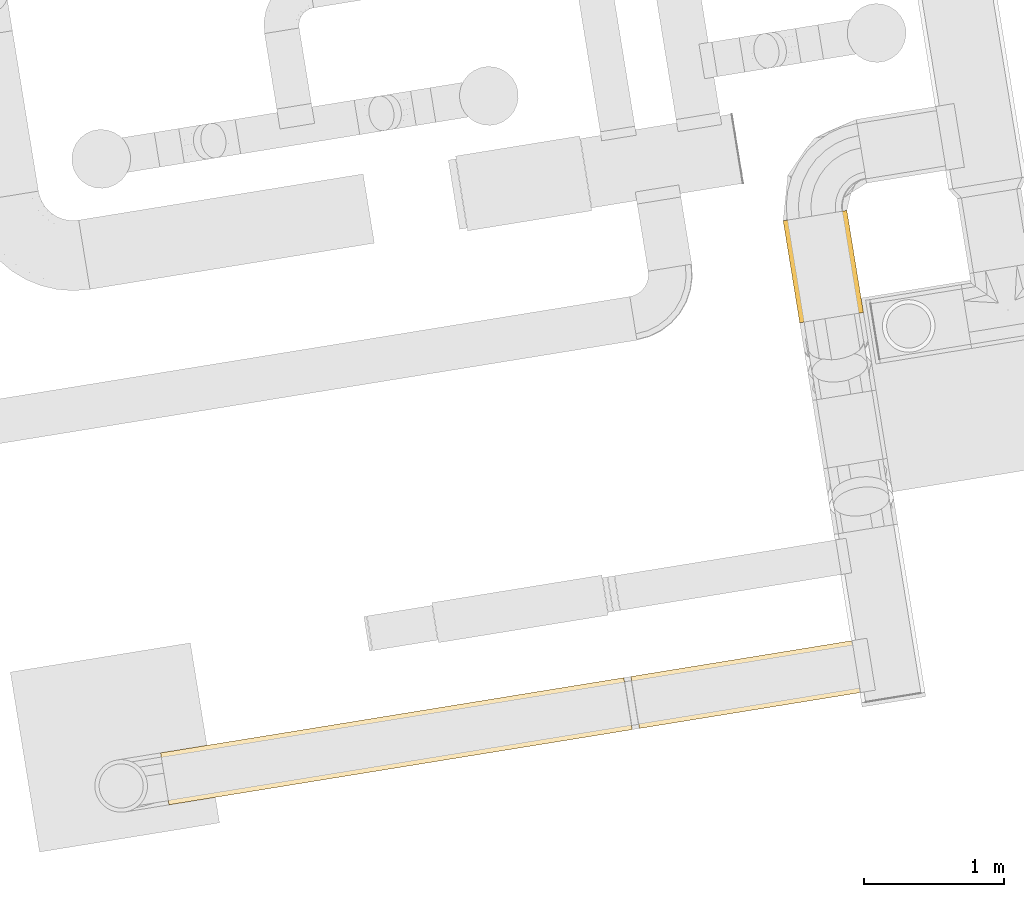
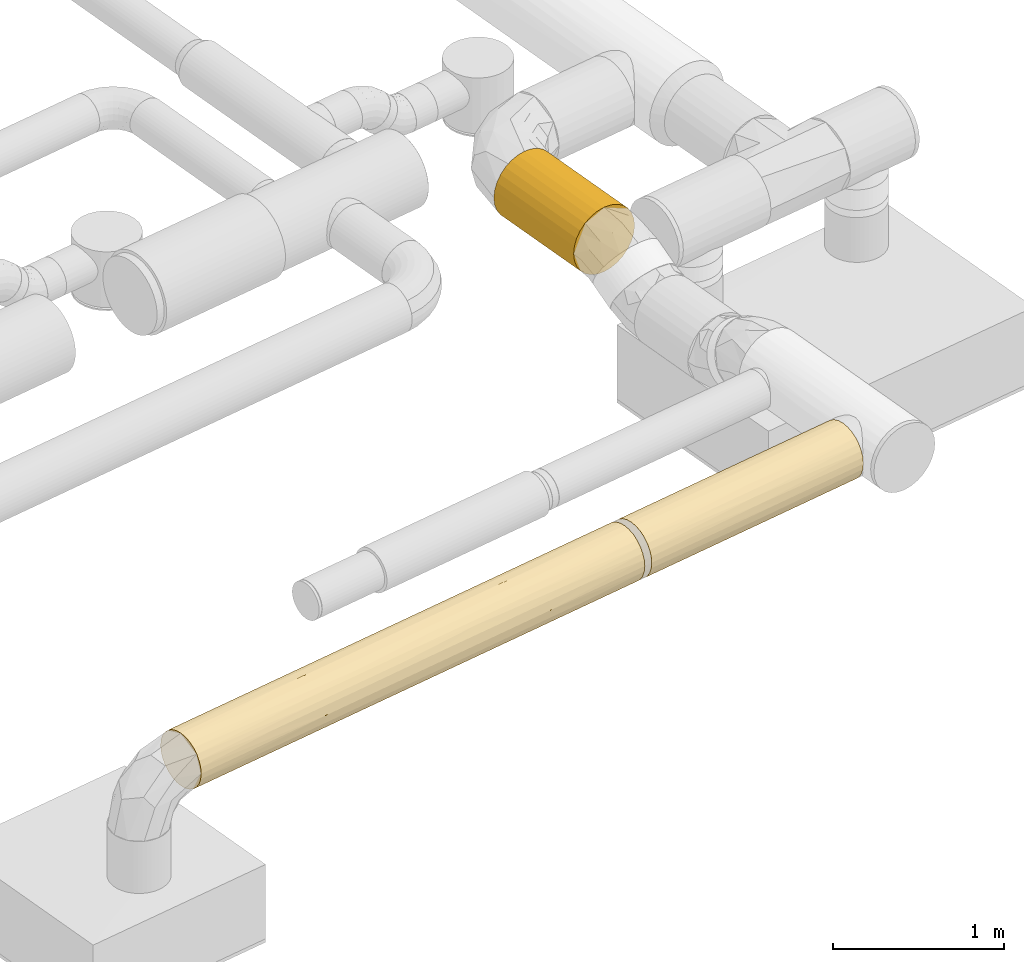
# One storey, part 3 of 39: 3 coverings.
"""IFC2X3 building model written with IfcOpenShell, lengths in millimetres."""

from ifc_helpers import new_model, entity, si_unit, converted_unit, derived_unit, direction, frame, origin, origin_with_axes, place, context, subcontext, project, spatial, faceted_brep, type_object, element, save


model = new_model("IFC2X3")

# Units and contexts
model_context = context("Model", 3, precision=0.01, world=origin(), true_north=direction((6.12323399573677e-17, 1.0)))
plan_context = context("Plan", 3, precision=1e-05, world=origin_with_axes())
body_context = subcontext(model_context, "Body", "Model", "MODEL_VIEW")
ifc_project = project(units=[converted_unit("PLANEANGLEUNIT", "DEGREE", entity("IfcPositiveLengthMeasure", 0.0174532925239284), si_unit("PLANEANGLEUNIT", "RADIAN"), dimensions=[0, 0, 0, 0, 0, 0, 0]), si_unit("AREAUNIT", "SQUARE_METRE"), si_unit("LENGTHUNIT", "METRE", prefix="MILLI"), si_unit("MASSUNIT", "GRAM", prefix="KILO"), si_unit("POWERUNIT", "WATT"), si_unit("PRESSUREUNIT", "PASCAL", prefix="KILO"), si_unit("FORCEUNIT", "NEWTON", prefix="KILO"), si_unit("ELECTRICVOLTAGEUNIT", "VOLT"), si_unit("ELECTRICCURRENTUNIT", "AMPERE"), si_unit("THERMODYNAMICTEMPERATUREUNIT", "DEGREE_CELSIUS"), si_unit("TIMEUNIT", "SECOND"), si_unit("VOLUMEUNIT", "CUBIC_METRE"), derived_unit("LINEARVELOCITYUNIT", [(si_unit("LENGTHUNIT", "METRE"), 1), (si_unit("TIMEUNIT", "SECOND"), -1)]), derived_unit("VOLUMETRICFLOWRATEUNIT", [(si_unit("VOLUMEUNIT", "CUBIC_METRE"), 1), (si_unit("TIMEUNIT", "SECOND"), -1)]), derived_unit("THERMALTRANSMITTANCEUNIT", [(si_unit("POWERUNIT", "WATT"), 1), (si_unit("THERMODYNAMICTEMPERATUREUNIT", "KELVIN"), -1), (si_unit("AREAUNIT", "SQUARE_METRE"), -1)]), derived_unit("SOUNDPRESSUREUNIT", [(si_unit("PRESSUREUNIT", "PASCAL"), 1)])], contexts=[model_context, plan_context])

# Site, building, storey
site_placement = place(None, frame((-0.00071070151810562, 0.00438415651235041, 0.0), z_axis=(0.0, 0.0, 1.0), x_axis=(-0.160236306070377, 0.987078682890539, 0.0)))
site = spatial("IfcSite", under=ifc_project, at=site_placement, Name="Default", CompositionType="ELEMENT")
building_placement = place(site_placement, origin_with_axes())
building = spatial("IfcBuilding", under=site, at=building_placement, CompositionType="ELEMENT")
storey_placement = place(building_placement, frame((0.0, 0.0, 50999.9999999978), z_axis=(0.0, 0.0, 1.0), x_axis=(1.0, 0.0, 0.0)))
storey = spatial("IfcBuildingStorey", under=building, at=storey_placement, Name="Nivå D", CompositionType="ELEMENT", Elevation=50999.9999999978)

# Coverings
covering_type = type_object("IfcCoveringType", Name="Duct Insulation:EI 60-30", PredefinedType="INSULATION")
covering_1_placement = place(storey_placement, frame((771718.422491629, -600954.500350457, 3068.40472776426), z_axis=(0.0, 0.0, 1.0), x_axis=(1.0, 0.0, 0.0)))
element("IfcCovering", 1, at=covering_1_placement, inside=storey, type_object=covering_type, Name="Duct Insulation:EI 60-30", ObjectType="Duct Insulation:EI 60-30", PredefinedType="INSULATION", context=body_context, shape_type="Brep", body=[
    faceted_brep([(736.41016151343, 438.818111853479, 131.802012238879), (736.41016151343, 455.828692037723, 180.415457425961), (736.41016151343, 461.595272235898, 231.595272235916), (736.41016151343, 455.828692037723, 282.77508704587), (736.41016151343, 438.818111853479, 331.388532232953), (736.41016151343, 411.416513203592, 374.997926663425), (736.41016151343, 374.997926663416, 411.416513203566), (736.41016151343, 331.388532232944, 438.818111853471), (736.41016151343, 282.775087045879, 455.828692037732), (736.41016151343, 231.595272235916, 461.595272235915), (736.41016151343, 180.415457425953, 455.828692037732), (736.41016151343, 131.802012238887, 438.818111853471), (736.41016151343, 88.1926178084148, 411.416513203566), (736.41016151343, 51.774031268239, 374.997926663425), (736.41016151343, 24.3724326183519, 331.388532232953), (736.41016151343, 7.36185243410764, 282.77508704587), (736.41016151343, 1.59527223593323, 231.595272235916), (736.41016151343, 7.36185243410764, 180.415457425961), (736.41016151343, 24.3724326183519, 131.802012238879), (736.41016151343, 51.774031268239, 88.1926178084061), (736.41016151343, 88.1926178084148, 51.774031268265), (736.41016151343, 131.802012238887, 24.3724326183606), (736.41016151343, 180.415457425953, 7.36185243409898), (736.41016151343, 231.595272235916, 1.5952722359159), (736.41016151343, 282.775087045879, 7.36185243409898), (736.41016151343, 331.388532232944, 24.3724326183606), (736.41016151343, 374.997926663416, 51.774031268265), (736.41016151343, 411.416513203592, 88.1926178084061), (0.0, 374.997926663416, 51.774031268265), (0.0, 331.388532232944, 24.3724326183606), (0.0, 282.775087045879, 7.36185243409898), (0.0, 231.595272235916, 1.5952722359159), (0.0, 180.415457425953, 7.36185243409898), (0.0, 131.802012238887, 24.3724326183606), (0.0, 88.1926178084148, 51.774031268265), (0.0, 51.774031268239, 88.1926178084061), (0.0, 24.3724326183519, 131.802012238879), (0.0, 7.36185243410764, 180.415457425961), (0.0, 1.59527223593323, 231.595272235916), (0.0, 7.36185243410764, 282.77508704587), (0.0, 24.3724326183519, 331.388532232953), (0.0, 51.774031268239, 374.997926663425), (0.0, 88.1926178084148, 411.416513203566), (0.0, 131.802012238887, 438.818111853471), (0.0, 180.415457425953, 455.828692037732), (0.0, 231.595272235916, 461.595272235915), (0.0, 282.775087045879, 455.828692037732), (0.0, 331.388532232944, 438.818111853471), (0.0, 374.997926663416, 411.416513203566), (0.0, 411.416513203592, 374.997926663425), (0.0, 438.818111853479, 331.388532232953), (0.0, 455.828692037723, 282.77508704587), (0.0, 461.595272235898, 231.595272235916), (0.0, 455.828692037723, 180.415457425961), (0.0, 438.818111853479, 131.802012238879), (0.0, 411.416513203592, 88.1926178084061)], [[[0, 1, 2, 3, 4, 5, 6, 7, 8, 9, 10, 11, 12, 13, 14, 15, 16, 17, 18, 19, 20, 21, 22, 23, 24, 25, 26, 27]], [[28, 29, 30, 31, 32, 33, 34, 35, 36, 37, 38, 39, 40, 41, 42, 43, 44, 45, 46, 47, 48, 49, 50, 51, 52, 53, 54, 55]], [[38, 37, 17, 16]], [[37, 36, 18, 17]], [[19, 18, 36, 35]], [[35, 34, 20, 19]], [[21, 20, 34, 33]], [[22, 21, 33, 32]], [[23, 22, 32, 31]], [[24, 23, 31, 30]], [[25, 24, 30, 29]], [[26, 25, 29, 28]], [[28, 55, 27, 26]], [[0, 27, 55, 54]], [[1, 0, 54, 53]], [[2, 1, 53, 52]], [[3, 2, 52, 51]], [[4, 3, 51, 50]], [[5, 4, 50, 49]], [[49, 48, 6, 5]], [[7, 6, 48, 47]], [[8, 7, 47, 46]], [[9, 8, 46, 45]], [[10, 9, 45, 44]], [[11, 10, 44, 43]], [[12, 11, 43, 42]], [[42, 41, 13, 12]], [[14, 13, 41, 40]], [[15, 14, 40, 39]], [[16, 15, 39, 38]]]),
])
covering_2_placement = place(storey_placement, frame((769045.737380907, -598849.480498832, 3060.90472776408), z_axis=(0.0, 0.0, 1.0), x_axis=(1.0, 0.0, 0.0)))
element("IfcCovering", 2, at=covering_2_placement, inside=storey, type_object=covering_type, Name="Duct Insulation:EI 60-30", ObjectType="Duct Insulation:EI 60-30", PredefinedType="INSULATION", context=body_context, shape_type="Brep", body=[
    faceted_brep([(147.372597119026, 0.0, 6.29628870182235), (189.095272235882, 0.0, 1.5952722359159), (230.817947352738, 0.0, 6.29628870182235), (270.448473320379, 0.0, 20.1636095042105), (305.999610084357, 0.0, 42.5018692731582), (335.688675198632, 0.0, 72.1909343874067), (358.026934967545, 0.0, 107.742071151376), (371.89425576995, 0.0, 147.372597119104), (376.595272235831, 0.0, 189.095272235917), (371.89425576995, 0.0, 230.817947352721), (358.026934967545, 0.0, 270.448473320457), (335.688675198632, 0.0, 305.999610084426), (305.999610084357, 0.0, 335.688675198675), (270.448473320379, 0.0, 358.026934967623), (230.817947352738, 0.0, 371.894255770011), (189.095272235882, 0.0, 376.595272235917), (147.372597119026, 0.0, 371.894255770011), (107.742071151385, 0.0, 358.026934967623), (72.1909343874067, 0.0, 335.688675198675), (42.5018692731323, 0.0, 305.999610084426), (20.1636095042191, 0.0, 270.448473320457), (6.29628870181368, 0.0, 230.817947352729), (1.59527223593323, 0.0, 189.095272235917), (6.29628870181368, 0.0, 147.372597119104), (20.1636095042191, 0.0, 107.742071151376), (42.5018692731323, 0.0, 72.1909343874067), (72.1909343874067, 0.0, 42.5018692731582), (107.742071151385, 0.0, 20.1636095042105), (107.742071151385, 3344.73375760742, 20.1636095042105), (72.1909343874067, 3344.73375760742, 42.5018692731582), (42.5018692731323, 3344.73375760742, 72.1909343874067), (20.1636095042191, 3344.73375760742, 107.742071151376), (6.29628870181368, 3344.73375760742, 147.372597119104), (1.59527223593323, 3344.73375760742, 189.095272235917), (6.29628870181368, 3344.73375760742, 230.817947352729), (20.1636095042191, 3344.73375760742, 270.448473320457), (42.5018692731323, 3344.73375760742, 305.999610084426), (72.1909343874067, 3344.73375760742, 335.688675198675), (107.742071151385, 3344.73375760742, 358.026934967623), (147.372597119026, 3344.73375760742, 371.894255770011), (189.095272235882, 3344.73375760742, 376.595272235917), (230.817947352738, 3344.73375760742, 371.894255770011), (270.448473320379, 3344.73375760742, 358.026934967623), (305.999610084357, 3344.73375760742, 335.688675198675), (335.688675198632, 3344.73375760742, 305.999610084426), (358.026934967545, 3344.73375760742, 270.448473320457), (371.89425576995, 3344.73375760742, 230.817947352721), (376.595272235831, 3344.73375760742, 189.095272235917), (371.89425576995, 3344.73375760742, 147.372597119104), (358.026934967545, 3344.73375760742, 107.742071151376), (335.688675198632, 3344.73375760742, 72.1909343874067), (305.999610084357, 3344.73375760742, 42.5018692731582), (270.448473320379, 3344.73375760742, 20.1636095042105), (230.817947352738, 3344.73375760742, 6.29628870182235), (189.095272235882, 3344.73375760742, 1.5952722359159), (147.372597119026, 3344.73375760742, 6.29628870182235), (12.1171479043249, 2805.18604467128, 127.167947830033), (29.0066264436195, 2492.63304395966, 91.484435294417), (12.1171480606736, 2180.08004693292, 127.16794738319), (12.1171479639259, 447.105385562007, 127.167947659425), (1.59527223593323, 716.124218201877, 189.095272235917), (1.59527223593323, 2388.49109700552, 189.095272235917), (127.167948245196, 447.10539042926, 12.1171477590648), (91.4844361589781, 2492.63304489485, 29.0066259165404), (1.59527223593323, 1432.24843640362, 189.095272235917), (1.59527223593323, 1910.36978497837, 189.095272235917), (12.1171481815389, 994.41608647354, 127.1679470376), (127.167948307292, 2805.18604412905, 12.1171477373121), (56.5127510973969, 2538.342160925, 56.5127504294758), (92.2532249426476, 1798.52346571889, 28.5403972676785), (37.7548588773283, 1239.37924160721, 78.4050319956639), (30.0175925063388, 599.073211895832, 89.8453764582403), (189.095272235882, 716.123652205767, 1.5952722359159), (189.095272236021, 2388.49163590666, 1.5952722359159), (189.095272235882, 1912.48466243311, 1.5952722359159), (189.095272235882, 1910.3716799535, 1.5952722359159), (127.167948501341, 2180.08004574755, 12.1171476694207), (127.167948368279, 994.416092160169, 12.1171477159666), (189.095272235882, 1432.24951420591, 1.5952722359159), (189.095272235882, 956.24328774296, 1.5952722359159), (28.5403981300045, 1798.52346665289, 92.2532235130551), (56.5127512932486, 1672.36688079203, 56.5127502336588), (78.4050334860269, 1239.37923805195, 37.7548577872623), (89.8453769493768, 599.073208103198, 30.017592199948), (56.5127510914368, 806.391599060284, 56.5127504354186), (125.566831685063, 1587.24806912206, 12.6855581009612), (189.095272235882, 2628.60921002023, 1.5952722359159), (12.6855588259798, 1587.24807021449, 125.566829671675), (189.095272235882, 1434.36493161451, 1.5952722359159), (251.022596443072, 2897.62836641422, 12.1171478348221), (366.073396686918, 2805.18604404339, 127.167948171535), (349.183918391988, 2492.63304498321, 91.4844358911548), (321.677793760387, 806.391599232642, 56.5127508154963), (285.937320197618, 1546.21029301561, 28.5403976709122), (321.677793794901, 1672.36687882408, 56.5127508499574), (251.022596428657, 539.547715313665, 12.1171478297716), (286.706108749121, 852.100714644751, 29.0066261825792), (349.650146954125, 1798.52346622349, 92.2532245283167), (340.435686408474, 1239.37923869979, 78.4050331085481), (288.345167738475, 2745.66054744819, 30.0175923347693), (321.677793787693, 2538.34215843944, 56.5127508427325), (299.785511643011, 2105.35451902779, 37.7548582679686), (251.022596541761, 2350.31766455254, 12.1171478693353), (251.022596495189, 1164.65371496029, 12.117147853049), (376.595272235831, 2388.50025070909, 189.095272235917), (376.595272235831, 1912.4826619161, 189.095272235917), (376.595272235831, 1910.38349725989, 189.095272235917), (366.073396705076, 2180.08004621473, 127.167948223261), (366.07339668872, 994.416092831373, 127.167948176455), (376.595272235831, 1432.25237473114, 189.095272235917), (376.595272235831, 956.234744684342, 189.095272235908), (376.595272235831, 716.12618736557, 189.095272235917), (366.073396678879, 447.105391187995, 127.167948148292), (348.172952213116, 599.073209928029, 89.8453768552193), (252.623713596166, 1757.48568976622, 12.6855583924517), (376.595272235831, 2628.60820976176, 189.095272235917), (365.504986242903, 1587.24806955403, 125.566831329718), (376.595272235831, 1434.35870330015, 189.095272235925), (366.073396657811, 2897.6283661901, 251.022596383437), (251.022596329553, 2805.18604430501, 366.073396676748), (286.706108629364, 2492.63304552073, 349.183918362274), (321.677793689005, 806.391599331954, 321.677793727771), (349.650146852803, 1546.21029070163, 285.9373201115), (321.677793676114, 1672.36687878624, 321.677793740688), (366.073396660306, 539.547713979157, 251.022596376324), (349.183918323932, 852.100712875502, 286.706108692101), (285.937320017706, 1798.52346753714, 349.650146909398), (299.785511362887, 1239.37923893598, 340.435686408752), (348.172952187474, 2745.66054724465, 288.34516765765), (321.677793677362, 2538.3421582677, 321.677793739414), (340.435686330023, 2105.35451868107, 299.785511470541), (366.073396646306, 2350.3176644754, 251.022596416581), (366.073396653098, 1164.6537120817, 251.022596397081), (189.095272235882, 2388.4911087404, 376.595272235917), (189.095272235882, 1912.48529784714, 376.595272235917), (189.095272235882, 1910.36978430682, 376.595272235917), (251.022596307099, 2180.08004688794, 366.073396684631), (251.022596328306, 994.416092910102, 366.073396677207), (189.095272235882, 1432.24845987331, 376.595272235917), (189.095272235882, 956.242648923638, 376.595272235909), (189.095272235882, 716.124229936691, 376.595272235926), (251.022596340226, 447.105391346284, 366.073396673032), (288.345167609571, 599.073210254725, 348.172952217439), (365.50498616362, 1757.48568827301, 252.623713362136), (189.095272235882, 2628.60952772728, 376.595272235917), (252.623713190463, 1587.24806991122, 365.504986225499), (189.095272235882, 1434.36397338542, 376.595272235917), (127.167948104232, 2897.628366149, 366.073396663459), (12.1171477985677, 2805.18604448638, 251.022596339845), (29.0066261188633, 2492.63304585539, 286.706108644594), (56.5127507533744, 806.391599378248, 321.67779369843), (92.2532243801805, 1546.21028967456, 349.650146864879), (56.5127507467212, 1672.36687878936, 321.677793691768), (127.167948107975, 539.547713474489, 366.073396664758), (91.4844357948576, 852.100712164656, 349.183918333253), (28.5403975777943, 1798.52346825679, 285.937320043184), (37.7548580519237, 1239.37923902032, 299.785511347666), (89.8453768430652, 2745.6605471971, 348.172952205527), (56.5127507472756, 2538.34215821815, 321.67779369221), (78.4050330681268, 2105.35451858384, 340.435686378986), (127.167948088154, 2350.31766454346, 366.073396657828), (127.167948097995, 1164.65371100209, 366.073396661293), (12.1171477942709, 2180.08004731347, 251.022596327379), (12.1171477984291, 994.416092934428, 251.022596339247), (12.1171478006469, 447.10539141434, 251.022596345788), (30.0175922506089, 599.073210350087, 288.345167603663), (125.566831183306, 1757.48568776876, 365.504986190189), (12.6855582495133, 1587.24807013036, 252.623713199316)], [[[0, 1, 2, 3, 4, 5, 6, 7, 8, 9, 10, 11, 12, 13, 14, 15, 16, 17, 18, 19, 20, 21, 22, 23, 24, 25, 26, 27]], [[28, 29, 30, 31, 32, 33, 34, 35, 36, 37, 38, 39, 40, 41, 42, 43, 44, 45, 46, 47, 48, 49, 50, 51, 52, 53, 54, 55]], [[32, 31, 56]], [[56, 57, 58]], [[23, 59, 24]], [[22, 60, 23]], [[33, 32, 61]], [[27, 62, 0]], [[61, 32, 56]], [[28, 63, 29]], [[58, 64, 65, 61, 56]], [[60, 64, 66, 59]], [[28, 55, 67]], [[30, 29, 68]], [[68, 63, 69]], [[66, 70, 71]], [[72, 0, 62]], [[73, 74, 75, 76, 67]], [[77, 78, 79, 72, 62]], [[80, 81, 70]], [[30, 68, 57]], [[81, 69, 82]], [[28, 67, 63]], [[80, 58, 57]], [[82, 83, 84]], [[78, 77, 85]], [[55, 54, 86, 73]], [[1, 0, 72]], [[69, 81, 68]], [[26, 84, 83]], [[25, 24, 71]], [[26, 25, 84]], [[80, 57, 68]], [[58, 87, 64]], [[31, 30, 57]], [[57, 56, 31]], [[80, 68, 81]], [[70, 81, 84]], [[87, 58, 80]], [[73, 67, 55]], [[63, 67, 76]], [[63, 76, 69]], [[29, 63, 68]], [[76, 85, 69]], [[81, 82, 84]], [[71, 70, 84]], [[87, 70, 66]], [[25, 71, 84]], [[71, 24, 59]], [[85, 82, 69]], [[77, 62, 83]], [[77, 83, 82]], [[26, 83, 27]], [[60, 59, 23]], [[71, 59, 66]], [[83, 62, 27]], [[70, 87, 80]], [[64, 87, 66]], [[82, 85, 77]], [[75, 85, 76]], [[85, 75, 88, 78]], [[53, 52, 89]], [[49, 90, 91]], [[92, 93, 94]], [[3, 95, 96]], [[94, 97, 98]], [[95, 3, 2]], [[99, 100, 101]], [[102, 74, 73, 86]], [[49, 91, 50]], [[2, 1, 72, 79]], [[54, 53, 86]], [[79, 78, 88, 103, 95]], [[86, 89, 102]], [[51, 50, 100]], [[4, 3, 96]], [[94, 93, 101]], [[104, 105, 106, 107, 90]], [[108, 109, 110, 111, 112]], [[5, 92, 113]], [[86, 53, 89]], [[51, 100, 99]], [[74, 102, 114]], [[49, 48, 90]], [[98, 113, 92]], [[111, 7, 112]], [[48, 47, 115, 104]], [[8, 7, 111]], [[97, 94, 100]], [[92, 96, 93]], [[100, 91, 97]], [[5, 4, 92]], [[109, 108, 116]], [[6, 112, 7]], [[79, 95, 2]], [[96, 95, 103]], [[96, 103, 93]], [[4, 96, 92]], [[103, 114, 93]], [[94, 101, 100]], [[104, 90, 48]], [[91, 90, 107]], [[91, 107, 97]], [[50, 91, 100]], [[107, 116, 97]], [[94, 98, 92]], [[114, 101, 93]], [[102, 89, 99]], [[102, 99, 101]], [[51, 99, 52]], [[116, 98, 97]], [[108, 112, 113]], [[108, 113, 98]], [[5, 113, 6]], [[99, 89, 52]], [[113, 112, 6]], [[106, 116, 107]], [[101, 114, 102]], [[98, 116, 108]], [[88, 114, 103]], [[114, 88, 75, 74]], [[116, 106, 117, 109]], [[46, 45, 118]], [[42, 119, 120]], [[121, 122, 123]], [[10, 124, 125]], [[123, 126, 127]], [[124, 10, 9]], [[128, 129, 130]], [[131, 105, 104, 115, 118]], [[110, 109, 117, 132, 124]], [[42, 120, 43]], [[9, 8, 111, 110]], [[47, 46, 115]], [[44, 43, 129]], [[11, 10, 125]], [[123, 122, 130]], [[133, 134, 135, 136, 119]], [[137, 138, 139, 140, 141]], [[12, 121, 142]], [[115, 46, 118]], [[44, 129, 128]], [[105, 131, 143]], [[42, 41, 119]], [[127, 142, 121]], [[140, 14, 141]], [[41, 40, 144, 133]], [[15, 14, 140]], [[126, 123, 129]], [[121, 125, 122]], [[129, 120, 126]], [[12, 11, 121]], [[138, 137, 145]], [[13, 141, 14]], [[110, 124, 9]], [[125, 124, 132]], [[125, 132, 122]], [[11, 125, 121]], [[132, 143, 122]], [[123, 130, 129]], [[133, 119, 41]], [[120, 119, 136]], [[120, 136, 126]], [[43, 120, 129]], [[136, 145, 126]], [[123, 127, 121]], [[143, 130, 122]], [[131, 118, 128]], [[131, 128, 130]], [[44, 128, 45]], [[145, 127, 126]], [[137, 141, 142]], [[137, 142, 127]], [[12, 142, 13]], [[128, 118, 45]], [[142, 141, 13]], [[135, 145, 136]], [[130, 143, 131]], [[127, 145, 137]], [[117, 143, 132]], [[143, 117, 106, 105]], [[145, 135, 146, 138]], [[39, 38, 147]], [[35, 148, 149]], [[150, 151, 152]], [[17, 153, 154]], [[152, 155, 156]], [[153, 17, 16]], [[157, 158, 159]], [[160, 134, 133, 144, 147]], [[139, 138, 146, 161, 153]], [[35, 149, 36]], [[16, 15, 140, 139]], [[40, 39, 144]], [[37, 36, 158]], [[18, 17, 154]], [[152, 151, 159]], [[61, 65, 162, 148]], [[163, 64, 60, 164]], [[19, 150, 165]], [[144, 39, 147]], [[37, 158, 157]], [[134, 160, 166]], [[35, 34, 148]], [[156, 165, 150]], [[60, 21, 164]], [[34, 33, 61]], [[22, 21, 60]], [[155, 152, 158]], [[150, 154, 151]], [[158, 149, 155]], [[19, 18, 150]], [[64, 163, 167]], [[20, 164, 21]], [[139, 153, 16]], [[154, 153, 161]], [[154, 161, 151]], [[18, 154, 150]], [[161, 166, 151]], [[152, 159, 158]], [[61, 148, 34]], [[149, 148, 162]], [[149, 162, 155]], [[36, 149, 158]], [[162, 167, 155]], [[152, 156, 150]], [[166, 159, 151]], [[160, 147, 157]], [[160, 157, 159]], [[37, 157, 38]], [[167, 156, 155]], [[163, 164, 165]], [[163, 165, 156]], [[19, 165, 20]], [[157, 147, 38]], [[165, 164, 20]], [[65, 167, 162]], [[159, 166, 160]], [[156, 167, 163]], [[146, 166, 161]], [[166, 146, 135, 134]], [[65, 64, 167]]]),
])
covering_3_placement = place(storey_placement, frame((769045.737380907, -600497.905078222, 3060.90472776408), z_axis=(0.0, 0.0, 1.0), x_axis=(1.0, 0.0, 0.0)))
element("IfcCovering", 3, at=covering_3_placement, inside=storey, type_object=covering_type, Name="Duct Insulation:EI 60-30", ObjectType="Duct Insulation:EI 60-30", PredefinedType="INSULATION", context=body_context, shape_type="Brep", body=[
    faceted_brep([(147.372597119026, 0.0, 6.29628870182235), (189.095272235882, 0.0, 1.5952722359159), (230.817947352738, 0.0, 6.29628870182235), (270.448473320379, 0.0, 20.1636095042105), (305.999610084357, 0.0, 42.5018692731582), (335.688675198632, 0.0, 72.1909343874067), (358.026934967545, 0.0, 107.742071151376), (371.89425576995, 0.0, 147.372597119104), (376.595272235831, 0.0, 189.095272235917), (371.89425576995, 0.0, 230.817947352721), (358.026934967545, 0.0, 270.448473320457), (335.688675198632, 0.0, 305.999610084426), (305.999610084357, 0.0, 335.688675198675), (270.448473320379, 0.0, 358.026934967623), (230.817947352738, 0.0, 371.894255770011), (189.095272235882, 0.0, 376.595272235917), (147.372597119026, 0.0, 371.894255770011), (107.742071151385, 0.0, 358.026934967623), (72.1909343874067, 0.0, 335.688675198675), (42.5018692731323, 0.0, 305.999610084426), (20.1636095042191, 0.0, 270.448473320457), (6.29628870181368, 0.0, 230.817947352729), (1.59527223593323, 0.0, 189.095272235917), (6.29628870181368, 0.0, 147.372597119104), (20.1636095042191, 0.0, 107.742071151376), (42.5018692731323, 0.0, 72.1909343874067), (72.1909343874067, 0.0, 42.5018692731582), (107.742071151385, 0.0, 20.1636095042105), (107.742071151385, 1596.42457938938, 20.1636095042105), (72.1909343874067, 1596.42457938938, 42.5018692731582), (42.5018692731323, 1596.42457938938, 72.1909343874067), (20.1636095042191, 1596.42457938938, 107.742071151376), (6.29628870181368, 1596.42457938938, 147.372597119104), (1.59527223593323, 1596.42457938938, 189.095272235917), (6.29628870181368, 1596.42457938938, 230.817947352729), (20.1636095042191, 1596.42457938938, 270.448473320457), (42.5018692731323, 1596.42457938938, 305.999610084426), (72.1909343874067, 1596.42457938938, 335.688675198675), (107.742071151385, 1596.42457938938, 358.026934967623), (147.372597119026, 1596.42457938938, 371.894255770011), (189.095272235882, 1596.42457938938, 376.595272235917), (230.817947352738, 1596.42457938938, 371.894255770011), (270.448473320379, 1596.42457938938, 358.026934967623), (305.999610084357, 1596.42457938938, 335.688675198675), (335.688675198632, 1596.42457938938, 305.999610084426), (358.026934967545, 1596.42457938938, 270.448473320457), (371.89425576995, 1596.42457938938, 230.817947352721), (376.595272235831, 1596.42457938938, 189.095272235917), (371.89425576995, 1596.42457938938, 147.372597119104), (358.026934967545, 1596.42457938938, 107.742071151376), (335.688675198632, 1596.42457938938, 72.1909343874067), (305.999610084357, 1596.42457938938, 42.5018692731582), (270.448473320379, 1596.42457938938, 20.1636095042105), (230.817947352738, 1596.42457938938, 6.29628870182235), (189.095272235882, 1596.42457938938, 1.5952722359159), (147.372597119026, 1596.42457938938, 6.29628870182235), (30.3344852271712, 798.212291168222, 89.3392573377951), (8.80963617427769, 780.950242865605, 137.584696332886), (1.59527223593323, 640.181904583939, 189.095272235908), (137.584697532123, 780.950230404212, 8.80963583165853), (56.5127509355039, 1140.71895666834, 56.5127505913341), (89.3392580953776, 798.212290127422, 30.3344847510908), (56.5127510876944, 586.360417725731, 56.512750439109), (189.095272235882, 640.184125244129, 1.5952722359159), (189.095272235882, 956.243863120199, 1.5952722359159), (240.605847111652, 815.4743484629, 8.80963588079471), (347.85605961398, 798.212289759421, 89.3392579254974), (321.677793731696, 1140.71895468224, 56.512750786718), (288.851286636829, 798.212289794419, 30.3344849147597), (321.677793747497, 586.360415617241, 56.5127508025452), (369.380908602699, 780.950228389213, 137.584697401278), (376.595272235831, 640.181929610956, 189.095272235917), (376.595272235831, 956.242649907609, 189.095272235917), (369.380908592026, 815.474350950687, 240.605847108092), (288.851286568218, 798.212289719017, 347.856059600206), (321.677793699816, 1140.71895418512, 321.677793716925), (347.856059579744, 798.212289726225, 288.851286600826), (321.677793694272, 586.360414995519, 321.677793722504), (240.605847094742, 780.950227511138, 369.380908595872), (189.095272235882, 640.181930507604, 376.595272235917), (189.095272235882, 956.242648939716, 376.595272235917), (137.584697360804, 815.474351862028, 369.380908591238), (30.3344848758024, 798.212289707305, 288.851286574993), (56.5127507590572, 1140.71895396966, 321.677793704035), (89.3392578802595, 798.212289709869, 347.856059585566), (56.5127507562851, 586.360414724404, 321.67779370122), (8.80963587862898, 780.950227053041, 240.605847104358)], [[[0, 1, 2, 3, 4, 5, 6, 7, 8, 9, 10, 11, 12, 13, 14, 15, 16, 17, 18, 19, 20, 21, 22, 23, 24, 25, 26, 27]], [[28, 29, 30, 31, 32, 33, 34, 35, 36, 37, 38, 39, 40, 41, 42, 43, 44, 45, 46, 47, 48, 49, 50, 51, 52, 53, 54, 55]], [[56, 24, 57]], [[56, 57, 31]], [[23, 58, 57]], [[24, 56, 25]], [[56, 31, 30]], [[22, 58, 23]], [[33, 32, 58]], [[27, 59, 0]], [[30, 29, 60]], [[57, 24, 23]], [[26, 61, 27]], [[25, 56, 62]], [[28, 55, 59]], [[61, 29, 28]], [[56, 60, 62]], [[0, 59, 63]], [[56, 30, 60]], [[61, 60, 29]], [[63, 1, 0]], [[55, 54, 64, 63]], [[31, 57, 32]], [[61, 26, 62]], [[55, 63, 59]], [[59, 27, 61]], [[58, 32, 57]], [[28, 59, 61]], [[25, 62, 26]], [[61, 62, 60]], [[53, 52, 65]], [[53, 65, 64]], [[66, 67, 50]], [[68, 67, 69]], [[68, 52, 51]], [[68, 65, 52]], [[53, 64, 54]], [[2, 1, 63, 64]], [[3, 68, 4]], [[65, 3, 2]], [[51, 50, 67]], [[4, 68, 69]], [[66, 50, 49]], [[4, 69, 5]], [[7, 70, 71]], [[49, 70, 66]], [[48, 71, 70]], [[71, 8, 7]], [[48, 47, 72, 71]], [[5, 66, 6]], [[66, 5, 69]], [[70, 6, 66]], [[3, 65, 68]], [[6, 70, 7]], [[2, 64, 65]], [[66, 69, 67]], [[68, 51, 67]], [[49, 48, 70]], [[46, 45, 73]], [[46, 73, 72]], [[74, 75, 43]], [[76, 75, 77]], [[76, 45, 44]], [[76, 73, 45]], [[46, 72, 47]], [[9, 8, 71, 72]], [[10, 76, 11]], [[73, 10, 9]], [[44, 43, 75]], [[11, 76, 77]], [[74, 43, 42]], [[11, 77, 12]], [[14, 78, 79]], [[42, 78, 74]], [[41, 79, 78]], [[79, 15, 14]], [[41, 40, 80, 79]], [[12, 74, 13]], [[74, 12, 77]], [[78, 13, 74]], [[10, 73, 76]], [[13, 78, 14]], [[9, 72, 73]], [[74, 77, 75]], [[76, 44, 75]], [[42, 41, 78]], [[39, 38, 81]], [[39, 81, 80]], [[82, 83, 36]], [[84, 83, 85]], [[84, 38, 37]], [[84, 81, 38]], [[39, 80, 40]], [[16, 15, 79, 80]], [[17, 84, 18]], [[81, 17, 16]], [[37, 36, 83]], [[18, 84, 85]], [[82, 36, 35]], [[18, 85, 19]], [[21, 86, 58]], [[35, 86, 82]], [[34, 58, 86]], [[58, 22, 21]], [[34, 33, 58]], [[19, 82, 20]], [[82, 19, 85]], [[86, 20, 82]], [[17, 81, 84]], [[20, 86, 21]], [[16, 80, 81]], [[82, 85, 83]], [[84, 37, 83]], [[35, 34, 86]]]),
])

save(model, "model.ifc")
